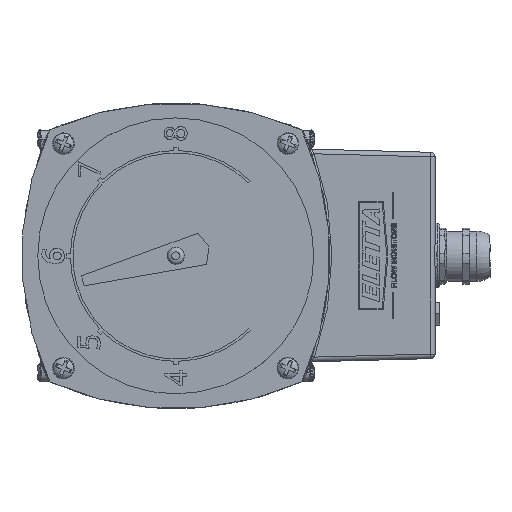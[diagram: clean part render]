
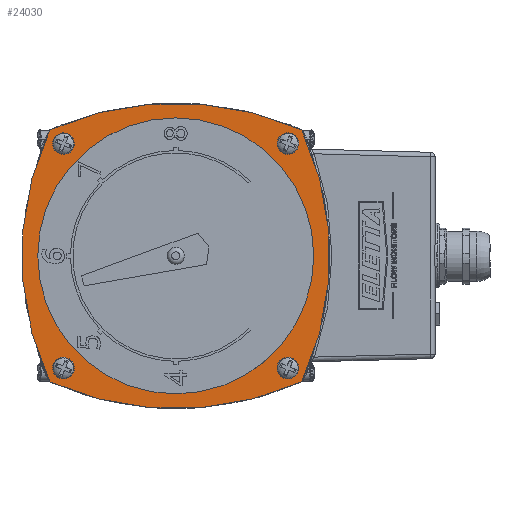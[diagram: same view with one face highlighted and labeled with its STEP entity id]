
A CAD part, left-side view. The second image highlights one B-rep face of the part: STEP entity #24030.
In plain terms, the highlighted planar face has unit normal (-1, 0, 0).
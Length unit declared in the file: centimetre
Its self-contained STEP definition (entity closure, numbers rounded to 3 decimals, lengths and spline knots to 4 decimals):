
#6854=PLANE('',#25843);
#7912=VERTEX_POINT('',#45527);
#7914=VERTEX_POINT('',#45532);
#7916=VERTEX_POINT('',#45537);
#7918=VERTEX_POINT('',#45542);
#7925=VERTEX_POINT('',#45558);
#7926=VERTEX_POINT('',#45559);
#7927=VERTEX_POINT('',#45561);
#7928=VERTEX_POINT('',#45563);
#7929=VERTEX_POINT('',#45566);
#9804=CIRCLE('',#25826,0.3);
#9806=CIRCLE('',#25829,0.3);
#9808=CIRCLE('',#25832,0.3);
#9810=CIRCLE('',#25835,0.3);
#9817=CIRCLE('',#25844,13.5);
#9818=CIRCLE('',#25845,13.);
#9819=CIRCLE('',#25846,13.5);
#9820=CIRCLE('',#25847,13.);
#9821=CIRCLE('',#25848,6.025);
#11284=EDGE_CURVE('',#7912,#7912,#9804,.T.);
#11286=EDGE_CURVE('',#7914,#7914,#9806,.T.);
#11288=EDGE_CURVE('',#7916,#7916,#9808,.T.);
#11290=EDGE_CURVE('',#7918,#7918,#9810,.T.);
#11297=EDGE_CURVE('',#7925,#7926,#9817,.T.);
#11298=EDGE_CURVE('',#7927,#7925,#9818,.T.);
#11299=EDGE_CURVE('',#7928,#7927,#9819,.T.);
#11300=EDGE_CURVE('',#7926,#7928,#9820,.T.);
#11301=EDGE_CURVE('',#7929,#7929,#9821,.T.);
#15592=ORIENTED_EDGE('',*,*,#11297,.F.);
#15593=ORIENTED_EDGE('',*,*,#11298,.F.);
#15594=ORIENTED_EDGE('',*,*,#11299,.F.);
#15595=ORIENTED_EDGE('',*,*,#11300,.F.);
#15596=ORIENTED_EDGE('',*,*,#11301,.T.);
#15597=ORIENTED_EDGE('',*,*,#11290,.T.);
#15598=ORIENTED_EDGE('',*,*,#11288,.T.);
#15599=ORIENTED_EDGE('',*,*,#11286,.T.);
#15600=ORIENTED_EDGE('',*,*,#11284,.T.);
#20631=EDGE_LOOP('',(#15592,#15593,#15594,#15595));
#20632=EDGE_LOOP('',(#15596));
#20633=EDGE_LOOP('',(#15597));
#20634=EDGE_LOOP('',(#15598));
#20635=EDGE_LOOP('',(#15599));
#20636=EDGE_LOOP('',(#15600));
#22418=FACE_BOUND('',#20631,.T.);
#22419=FACE_BOUND('',#20632,.T.);
#22420=FACE_BOUND('',#20633,.T.);
#22421=FACE_BOUND('',#20634,.T.);
#22422=FACE_BOUND('',#20635,.T.);
#22423=FACE_BOUND('',#20636,.T.);
#24030=ADVANCED_FACE('',(#22418,#22419,#22420,#22421,#22422,#22423),#6854,
 .F.);
#25826=AXIS2_PLACEMENT_3D('',#45526,#28856,#28857);
#25829=AXIS2_PLACEMENT_3D('',#45531,#28862,#28863);
#25832=AXIS2_PLACEMENT_3D('',#45536,#28868,#28869);
#25835=AXIS2_PLACEMENT_3D('',#45541,#28874,#28875);
#25843=AXIS2_PLACEMENT_3D('',#45556,#28889,$);
#25844=AXIS2_PLACEMENT_3D('',#45557,#28890,#28891);
#25845=AXIS2_PLACEMENT_3D('',#45560,#28892,#28893);
#25846=AXIS2_PLACEMENT_3D('',#45562,#28894,#28895);
#25847=AXIS2_PLACEMENT_3D('',#45564,#28896,#28897);
#25848=AXIS2_PLACEMENT_3D('',#45565,#28898,#28899);
#28856=DIRECTION('',(1.,0.,0.));
#28857=DIRECTION('',(0.,0.,-0.3));
#28862=DIRECTION('',(1.,0.,0.));
#28863=DIRECTION('',(0.,0.,-0.3));
#28868=DIRECTION('',(1.,0.,0.));
#28869=DIRECTION('',(0.,0.,-0.3));
#28874=DIRECTION('',(1.,0.,0.));
#28875=DIRECTION('',(0.,0.,-0.3));
#28889=DIRECTION('',(1.,0.,0.));
#28890=DIRECTION('',(1.,0.,0.));
#28891=DIRECTION('',(0.,0.,-13.5));
#28892=DIRECTION('',(1.,0.,0.));
#28893=DIRECTION('',(0.,0.,-13.));
#28894=DIRECTION('',(1.,0.,0.));
#28895=DIRECTION('',(0.,0.,-13.5));
#28896=DIRECTION('',(1.,0.,0.));
#28897=DIRECTION('',(0.,0.,-13.));
#28898=DIRECTION('',(1.,0.,0.));
#28899=DIRECTION('',(0.,0.,-6.025));
#45526=CARTESIAN_POINT('',(7.581,5.8362,-1.9032));
#45527=CARTESIAN_POINT('',(7.581,5.8362,-1.6032));
#45531=CARTESIAN_POINT('',(7.581,-3.9638,7.8968));
#45532=CARTESIAN_POINT('',(7.581,-3.9638,8.1968));
#45536=CARTESIAN_POINT('',(7.581,-3.9638,-1.9032));
#45537=CARTESIAN_POINT('',(7.581,-3.9638,-1.6032));
#45541=CARTESIAN_POINT('',(7.581,5.8362,7.8968));
#45542=CARTESIAN_POINT('',(7.581,5.8362,8.1968));
#45556=CARTESIAN_POINT('',(7.581,0.9362,2.9968));
#45557=CARTESIAN_POINT('',(7.581,0.9362,-3.832));
#45558=CARTESIAN_POINT('',(7.581,6.4362,8.4968));
#45559=CARTESIAN_POINT('',(7.581,-4.5638,8.4968));
#45560=CARTESIAN_POINT('',(7.581,-5.343,2.9968));
#45561=CARTESIAN_POINT('',(7.581,6.4362,-2.5032));
#45562=CARTESIAN_POINT('',(7.581,0.9362,9.8257));
#45563=CARTESIAN_POINT('',(7.581,-4.5638,-2.5032));
#45564=CARTESIAN_POINT('',(7.581,7.2154,2.9968));
#45565=CARTESIAN_POINT('',(7.581,0.9362,2.9968));
#45566=CARTESIAN_POINT('',(7.581,0.9362,-3.0282));
